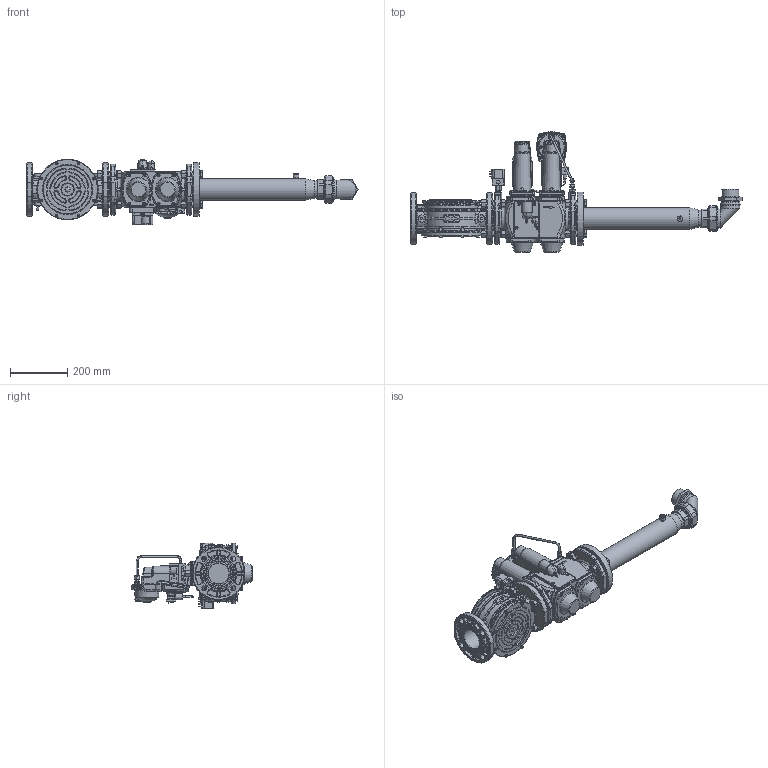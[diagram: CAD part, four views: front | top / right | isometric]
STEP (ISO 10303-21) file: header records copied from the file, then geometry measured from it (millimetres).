
FILE_DESCRIPTION (( 'STEP AP214' ), '1' );
FILE_NAME ('19990585.STEP', '2023-08-28T12:35:35', ( '' ), ( '' ), 'SwSTEP 2.0', 'SolidWorks 2021', '' );
FILE_SCHEMA (( 'AUTOMOTIVE_DESIGN' ));
Length unit declared in the file: millimetre
Products named in the file (30): 0005090232-01439; hex nut style 1 gradeab_iso_Hexagon Nut ISO - 4032 - M16 - D - C; 3793-01437; 41564-102586-AUTO; 0005180006-102398; 0005090234-149590-AUTO; 0005090234-149589-AUTO; 0005150109-110206; 0024060019-105601; 0005090231-01440; 0006020657-132475; 0005090234-149588; 0010060030-01485; 19990585; 15112-03297; 30282-102826; 0005090189-03743; 0005100119-109163; 0027030047-110207; 0005090234-149591-AUTO; 41564-102587; 57124-01494; plain washer normal grade a_iso_Washer ISO 7089 - 16; 0006020428-03387; 0005040038-03745; 18681-103294; hex screw gradeab_iso_ISO 4017 - M16 x 65-C; 4987-01486; 23134-03738; 0005040068-101251
Assembly tree (63 placements, depth 3):
  19990585
    30282-102826
    18681-103294
    0005180006-102398
    41564-102587
      41564-102586-AUTO
      23134-03738
      3793-01437
    0005090189-03743
    0005090232-01439
    0005090231-01440
    0006020657-132475
    0005040038-03745
    0010060030-01485
    4987-01486  x2
    0005040068-101251
    0005100119-109163
    hex screw gradeab_iso_ISO 4017 - M16 x 65-C  x4
    57124-01494  x4
    hex nut style 1 gradeab_iso_Hexagon Nut ISO - 4032 - M16 - D - C  x12
    plain washer normal grade a_iso_Washer ISO 7089 - 16  x16
    0024060019-105601
    0005150109-110206
    0027030047-110207
    15112-03297
    0006020428-03387  x2
    0005090234-149588
      0005090234-149590-AUTO
      0005090234-149589-AUTO
      0005090234-149591-AUTO
Bounding box: 1158.41 x 420.8 x 228.61 mm (x, y, z)
Volume: 6350141.1 mm3; surface area: 1625724.8 mm2
Topology: 86 solids, 132 shells, 8705 faces, 21216 edges, 12988 vertices
Faces by surface type: bspline 2667, cylinder 2402, plane 2397, torus 553, cone 540, sphere 146
Full cylindrical faces by diameter (mm): 1.5 x2, 2 x2, 3 x1, 3.1 x1, 3.4 x1, 3.838 x3, 4 x5, 4.3 x12, 4.8 x1, 5 x26, 5.188 x2, 5.3 x6, 5.5 x12, 5.795 x22, 5.9 x1, 6 x9, 6.2 x1, 6.4 x4, 6.5 x10, 7 x3, 8 x20, 8.5 x5, 9 x13, 9.5 x1, 9.728 x1, 10 x34, 10.6 x1, 11.3 x1, 11.5 x1, 11.55 x1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
Entity records: 392336 total; most frequent: CARTESIAN_POINT 224111, ORIENTED_EDGE 37637, DIRECTION 27730, EDGE_CURVE 18836, VERTEX_POINT 12015, AXIS2_PLACEMENT_3D 10823, EDGE_LOOP 9711, FACE_OUTER_BOUND 8912
